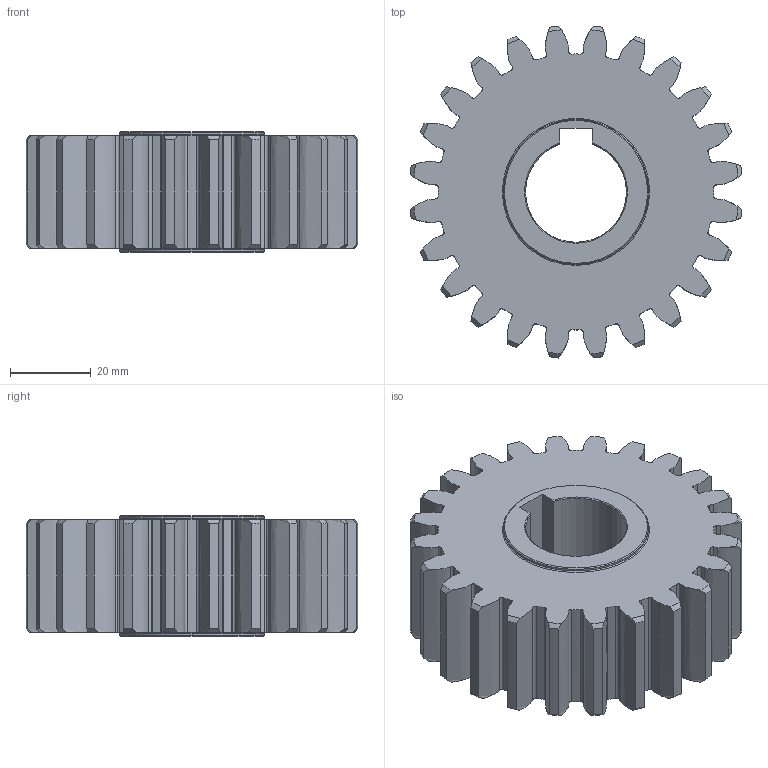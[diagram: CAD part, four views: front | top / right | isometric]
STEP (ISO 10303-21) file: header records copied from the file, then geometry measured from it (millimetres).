
FILE_DESCRIPTION (( 'STEP AP214' ), '1' );
FILE_NAME ('1SG__S031024S.STEP', '2021-12-20T08:42:05', ( '' ), ( '' ), 'SwSTEP 2.0', 'SolidWorks 2021', '' );
FILE_SCHEMA (( 'AUTOMOTIVE_DESIGN' ));
Length unit declared in the file: millimetre
Products named in the file (1): 1SG__S031024S
Bounding box: 82.32 x 82.32 x 30 mm (x, y, z)
Volume: 112471 mm3; surface area: 24278.2 mm2
Topology: 1 solids, 1 shells, 256 faces, 792 edges, 540 vertices
Faces by surface type: cylinder 91, bspline 72, cone 58, plane 31, torus 4
Entity records: 15838 total; most frequent: CARTESIAN_POINT 9017, ORIENTED_EDGE 1584, DIRECTION 1262, EDGE_CURVE 792, VERTEX_POINT 540, AXIS2_PLACEMENT_3D 481, VECTOR 300, LINE 300
